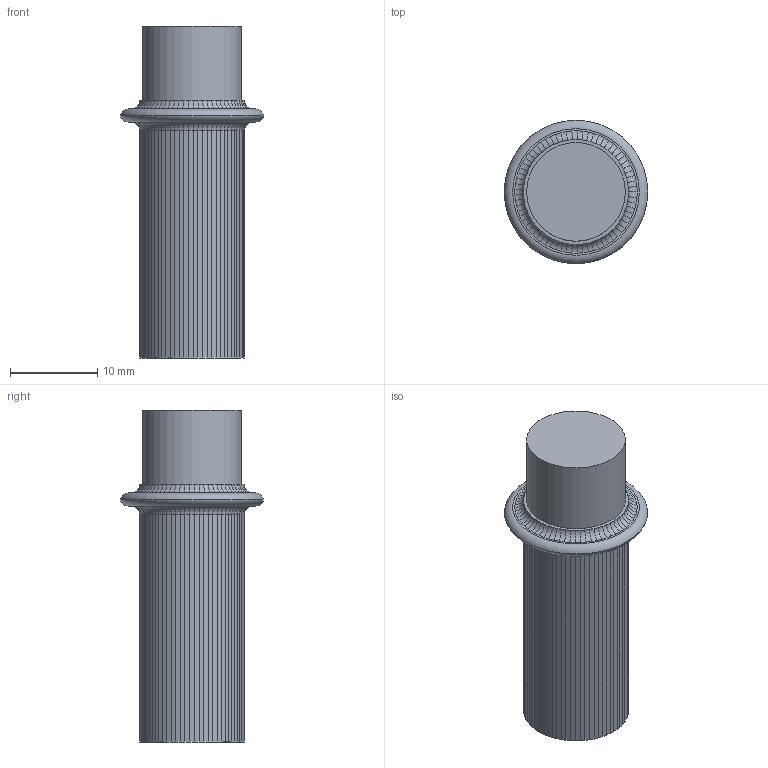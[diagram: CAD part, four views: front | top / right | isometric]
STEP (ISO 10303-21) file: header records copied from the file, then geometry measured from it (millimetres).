
FILE_DESCRIPTION(/* description */ ('STEP AP242 Edition 2','CAx-IF Rec.Pracs.---Representation and Presentation of Product Manufacturing Information (PMI)---4.0---2014-10-13','CAx-IF Rec.Pracs.---3D Tessellated Geometry---0.4---2014-09-14','2;1','CAx-IF Rec.Pracs.---User Defined Attributes---1.5---2016-08-15'),/* implementation_level */ '2;1');
FILE_NAME(/* name */ 'Tracker Assembly - Rod',/* time_stamp */ '2026-10-25T15:06:36Z',/* author */ (''),/* organization */ (''),/* preprocessor_version */ 'ST-DEVELOPER v20',/* originating_system */ 'ONSHAPE BY PTC INC, 1.222',/* authorisation */ ' ');
FILE_SCHEMA (('AP242_MANAGED_MODEL_BASED_3D_ENGINEERING_MIM_LF { 1 0 10303 442 3 1 4 }'));
Length unit declared in the file: metre
Products named in the file (1): Rod
Bounding box: 16.44 x 16.44 x 38 mm (x, y, z)
Volume: 4330.9 mm3; surface area: 1785.3 mm2
Topology: 1 solids, 1 shells, 215 faces, 560 edges, 350 vertices
Faces by surface type: cylinder 139, plane 74, torus 2
Full cylindrical faces by diameter (mm): 11.3 x1
Entity records: 6504 total; most frequent: DIRECTION 1132, CARTESIAN_POINT 1123, ORIENTED_EDGE 1114, EDGE_CURVE 557, LINE 414, VECTOR 414, AXIS2_PLACEMENT_3D 359, VERTEX_POINT 350
